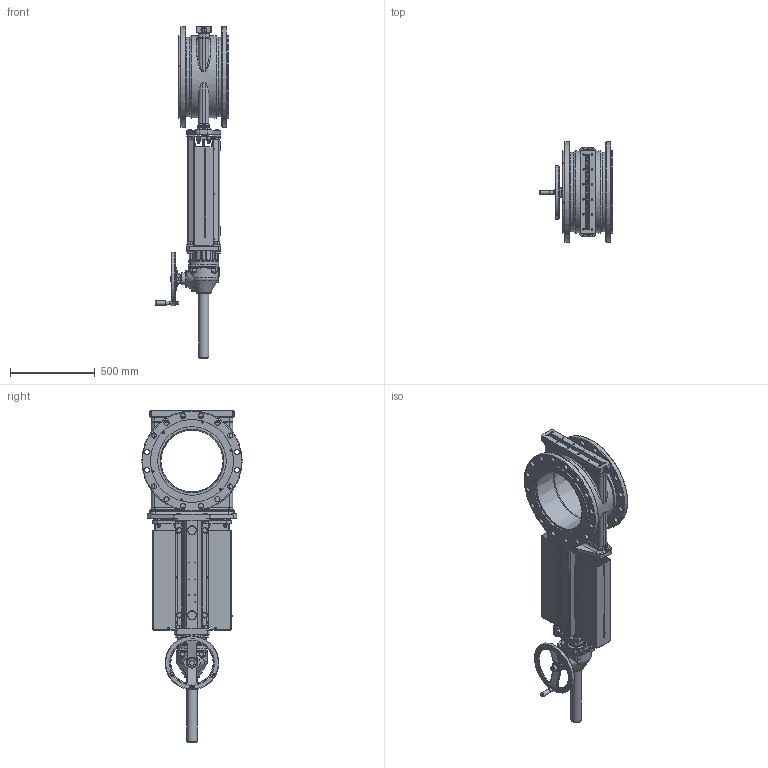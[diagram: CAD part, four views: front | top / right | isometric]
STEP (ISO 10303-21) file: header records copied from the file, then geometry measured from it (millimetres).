
FILE_DESCRIPTION(/* description */ (''),/* implementation_level */ '2;1');
FILE_NAME(/* name */ 'F:\3D-block färdiga för export\SLV-SLF\DN 400\SLF DN 400-ANSI150-BG-LDR.stp',/* time_stamp */ '2021-06-16T13:32:36+02:00',/* author */ ('MATZET'),/* organization */ (''),/* preprocessor_version */ 'ST-DEVELOPER v18',/* originating_system */ 'Autodesk Inventor 2020',/* authorisation */ '');
FILE_SCHEMA (('AUTOMOTIVE_DESIGN { 1 0 10303 214 3 1 1 }'));
Length unit declared in the file: millimetre
Products named in the file (1): SLF DN 400-ANSI150-BG-LDR_Shrinkwrap_1
Bounding box: 433.4 x 590 x 1953.5 mm (x, y, z)
Volume: 45695698.8 mm3; surface area: 6013374.3 mm2
Topology: 1 solids, 1 shells, 3043 faces, 8008 edges, 5163 vertices
Faces by surface type: plane 1332, cylinder 747, bspline 386, cone 268, torus 248, sphere 62
Full cylindrical faces by diameter (mm): 2 x2, 2.5 x8, 3.5 x4, 4 x24, 5 x8, 6 x13, 6.647 x4, 7 x12, 7.5 x12, 8.376 x2, 8.88 x1, 10 x12, 11 x16, 12 x18, 13 x8, 13.835 x4, 14 x8, 15 x9, 18 x5, 19 x8, 20 x4, 20.5 x2, 23 x8, 24 x16, 25 x3, 25.01 x2, 26 x4, 26.5 x2, 28.19 x8, 28.3 x2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
Entity records: 261721 total; most frequent: CARTESIAN_POINT 185522, ORIENTED_EDGE 15760, DIRECTION 15094, EDGE_CURVE 7880, AXIS2_PLACEMENT_3D 5854, VERTEX_POINT 5157, EDGE_LOOP 3579, LINE 3386
